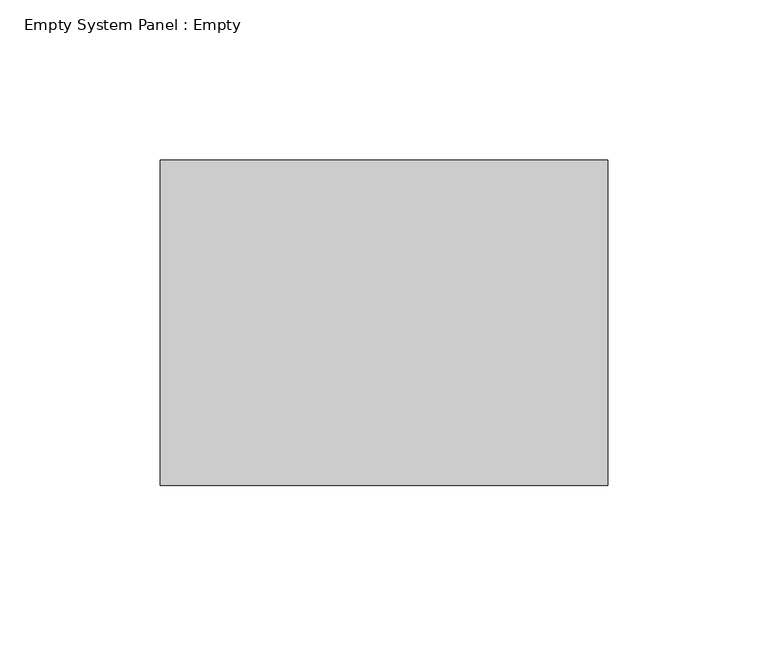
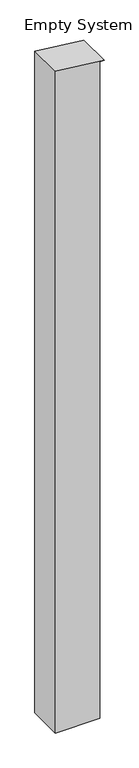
"""IFC4 building model written with IfcOpenShell, lengths in millimetres: plate geometry, Empty System Panel : Empty."""

import ifcopenshell
import ifcopenshell.guid

model = None  # the IFC model being written
_history = None  # IfcOwnerHistory: only IFC2X3 demands one
_inside = {}  # id of a spatial element -> (the spatial element, [elements in it])
_under = {}  # id of a project, library or spatial element -> (it, [spatial elements below it])
_declared = {}  # id of a project -> (the project, [libraries it declares])
_typed = {}  # id of a type object -> (the type object, [elements of that type])
_made_of = {}  # id of a material, layer set ... -> (it, [elements and type objects made of it])


def new_model(schema):
    """Start an empty IFC model of exactly this schema.

    Asked for "IFC4X3", IfcOpenShell would pick the latest addendum, in which some entities
    have other attributes; the version numbers below select the first issue.
    IFC2X3 requires an IfcOwnerHistory on every rooted entity: one is made here for all.
    """
    global model, _history
    if schema == "IFC4X3":
        model = ifcopenshell.file(schema_version=(4, 3, 0, 0))
    else:
        model = ifcopenshell.file(schema=schema)
    _inside.clear()
    _under.clear()
    _declared.clear()
    _typed.clear()
    _made_of.clear()
    _history = None
    if model.schema == "IFC2X3":
        org = make("IfcOrganization", Name="unknown")
        user = make(
            "IfcPersonAndOrganization",
            ThePerson=make("IfcPerson", FamilyName="unknown"),
            TheOrganization=org,
        )
        app = make(
            "IfcApplication",
            ApplicationDeveloper=org,
            Version="unknown",
            ApplicationFullName="unknown",
            ApplicationIdentifier="unknown",
        )
        _history = make(
            "IfcOwnerHistory",
            OwningUser=user,
            OwningApplication=app,
            ChangeAction="ADDED",
            CreationDate=0,
        )
    return model


def make(cls, **values):
    """One entity of the class cls with the attributes given. An attribute that is None is left unset."""
    return model.create_entity(
        cls, **{name: value for name, value in values.items() if value is not None}
    )


def rooted(cls, **values):
    """An entity with a GlobalId (a new one), such as an element, a storey or a relation."""
    return make(cls, GlobalId=ifcopenshell.guid.new(), OwnerHistory=_history, **values)


def si_unit(unit_type, name, prefix=None):
    """IfcSIUnit, for example si_unit("LENGTHUNIT", "METRE", prefix="MILLI")."""
    return make("IfcSIUnit", UnitType=unit_type, Prefix=prefix, Name=name)


def assignment(units):
    """IfcUnitAssignment: the units of a project."""
    return None if units is None else make("IfcUnitAssignment", Units=units)


def point(xyz):
    """IfcCartesianPoint."""
    return None if xyz is None else make("IfcCartesianPoint", Coordinates=xyz)


def direction(xyz):
    """IfcDirection."""
    return None if xyz is None else make("IfcDirection", DirectionRatios=xyz)


def frame(location, z_axis=None, x_axis=None):
    """IfcAxis2Placement3D, a coordinate frame: its origin and axes. An axis left out is left unset."""
    return make(
        "IfcAxis2Placement3D",
        Location=point(location),
        Axis=direction(z_axis),
        RefDirection=direction(x_axis),
    )


def origin():
    """The frame at (0, 0, 0) with its axes left unset."""
    return frame((0.0, 0.0, 0.0))


def place(relative_to, where):
    """IfcLocalPlacement: puts the frame where relative to a parent placement (None: the world)."""
    return make(
        "IfcLocalPlacement", PlacementRelTo=relative_to, RelativePlacement=where
    )


def context(
    kind, dimensions, precision=None, world=None, true_north=None, identifier=None
):
    """IfcGeometricRepresentationContext, for example the 3D "Model" context."""
    return make(
        "IfcGeometricRepresentationContext",
        ContextIdentifier=identifier,
        ContextType=kind,
        CoordinateSpaceDimension=dimensions,
        Precision=precision,
        WorldCoordinateSystem=world,
        TrueNorth=true_north,
    )


def project(units=None, contexts=None):
    """IfcProject with its units and contexts."""
    return rooted(
        "IfcProject",
        Name="project",
        RepresentationContexts=contexts,
        UnitsInContext=assignment(units),
    )


def spatial(cls, under=None, at=None, **own):
    """A site, building, storey or space (cls), placed at a placement, below another one or the project."""
    s = rooted(cls, ObjectPlacement=at, **own)
    if under is not None:
        _under.setdefault(under.id(), (under, []))[1].append(s)
    return s


def polyline(points):
    """IfcPolyline through the points."""
    return make("IfcPolyline", Points=[point(p) for p in points])


def outline(outer, holes=None, kind="AREA"):
    """IfcArbitraryClosedProfileDef: a profile drawn as a closed curve; with holes, ...WithVoids."""
    if holes is None:
        return make("IfcArbitraryClosedProfileDef", ProfileType=kind, OuterCurve=outer)
    return make(
        "IfcArbitraryProfileDefWithVoids",
        ProfileType=kind,
        OuterCurve=outer,
        InnerCurves=holes,
    )


def extrude(swept, where, along, depth):
    """IfcExtrudedAreaSolid: the profile swept, set in the frame where, extruded along a direction by depth."""
    return make(
        "IfcExtrudedAreaSolid",
        SweptArea=swept,
        Position=where,
        ExtrudedDirection=direction(along),
        Depth=depth,
    )


def shape(context_of_items, identifier, shape_type, items):
    """IfcShapeRepresentation: the items that make up one representation, for example the "Body"."""
    return make(
        "IfcShapeRepresentation",
        ContextOfItems=context_of_items,
        RepresentationIdentifier=identifier,
        RepresentationType=shape_type,
        Items=items,
    )


def source(mapping_origin, context_of_items, identifier, shape_type, items):
    """IfcRepresentationMap: a shape defined once, which mapped items show again and again."""
    return make(
        "IfcRepresentationMap",
        MappingOrigin=mapping_origin,
        MappedRepresentation=shape(context_of_items, identifier, shape_type, items),
    )


def transform(
    local_origin,
    x_axis=None,
    y_axis=None,
    z_axis=None,
    scale=None,
    scale2=None,
    scale3=None,
    uniform=True,
):
    """IfcCartesianTransformationOperator3D, or its non-uniform kind. x_axis, y_axis, z_axis: its Axis1, 2, 3."""
    if uniform:
        return make(
            "IfcCartesianTransformationOperator3D",
            Axis1=direction(x_axis),
            Axis2=direction(y_axis),
            LocalOrigin=point(local_origin),
            Scale=scale,
            Axis3=direction(z_axis),
        )
    return make(
        "IfcCartesianTransformationOperator3DnonUniform",
        Axis1=direction(x_axis),
        Axis2=direction(y_axis),
        LocalOrigin=point(local_origin),
        Scale=scale,
        Axis3=direction(z_axis),
        Scale2=scale2,
        Scale3=scale3,
    )


def mapped(mapping_source, mapping_target):
    """IfcMappedItem: shows the shape of a source again, moved by a transform."""
    return make(
        "IfcMappedItem", MappingSource=mapping_source, MappingTarget=mapping_target
    )


def made_of(thing, what):
    """Note that an element or type object is made of a material, layer set ...; save() writes the relation."""
    if what is not None:
        _made_of.setdefault(what.id(), (what, []))[1].append(thing)
    return thing


def element(
    cls,
    number,
    at=None,
    inside=None,
    cuts=None,
    type_object=None,
    material=None,
    context=None,
    identifier="Body",
    shape_type=None,
    held_by="IfcProductDefinitionShape",
    body=None,
    shapes=None,
    **own,
):
    """One element of the class cls, such as IfcWall. Its Tag is "e" and its number.

    at: its placement. inside: the storey or other place that contains it. cuts: it is an
    opening in that element (IfcRelVoidsElement). A single representation is given by context,
    identifier, shape_type and body (its items); several are given by shapes. held_by: the class
    of the entity that holds the representations. save() writes the other relations.
    """
    e = rooted(cls, Tag="e%d" % number, ObjectPlacement=at, **own)
    if body is not None:
        shapes = [shape(context, identifier, shape_type, body)]
    if shapes is not None:
        e.Representation = make(held_by, Representations=shapes)
    if inside is not None:
        _inside.setdefault(inside.id(), (inside, []))[1].append(e)
    if cuts is not None:
        rooted(
            "IfcRelVoidsElement", RelatingBuildingElement=cuts, RelatedOpeningElement=e
        )
    if type_object is not None:
        _typed.setdefault(type_object.id(), (type_object, []))[1].append(e)
    return made_of(e, material)


def aggregate(whole, parts):
    """IfcRelAggregates: a whole, such as a stair, and the parts it consists of."""
    return rooted("IfcRelAggregates", RelatingObject=whole, RelatedObjects=parts)


def save(model, path):
    """Write the relations noted so far, then the file.

    IfcRelAggregates (storeys below a building ...), IfcRelContainedInSpatialStructure (elements
    in a storey), IfcRelDefinesByType, IfcRelAssociatesMaterial and IfcRelDeclares: one each for
    every whole, place, type object, material and project.
    """
    for whole, parts in _under.values():
        aggregate(whole, parts)
    for where, things in _inside.values():
        rooted(
            "IfcRelContainedInSpatialStructure",
            RelatedElements=things,
            RelatingStructure=where,
        )
    for kind, things in _typed.values():
        rooted("IfcRelDefinesByType", RelatedObjects=things, RelatingType=kind)
    for what, things in _made_of.values():
        rooted("IfcRelAssociatesMaterial", RelatedObjects=things, RelatingMaterial=what)
    for by, libraries in _declared.values():
        rooted("IfcRelDeclares", RelatingContext=by, RelatedDefinitions=libraries)
    model.write(path)


def empty_system_panel_empty_c6d2c272(model_context):
    return source(origin(), model_context, "Body", "SweptSolid", [
        extrude(outline(polyline([(0.0, -69.85), (0.0, 57.15), (1991.3475719, 57.15), (1991.3475719, 69.85), (2006.9727619, -69.85), (0.0, -69.85)])), frame((0.0, -50.8, 0.0), z_axis=(0.0, 1.0, 0.0), x_axis=(0.0, 0.0, 1.0)), (0.0, 0.0, 1.0), 101.6),
    ])


if __name__ == "__main__":
    model = new_model("IFC4")
    model_context = context("Model", 3, world=origin())
    ifc_project = project(units=[si_unit("LENGTHUNIT", "METRE", prefix="MILLI")], contexts=[model_context])
    site = spatial("IfcSite", under=ifc_project)
    building = spatial("IfcBuilding", under=site)
    placement = place(None, origin())
    empty_system_panel_empty_shape = empty_system_panel_empty_c6d2c272(model_context)
    element("IfcPlate", 1, ObjectType="Empty System Panel : Empty", at=placement, inside=building, context=model_context, shape_type="MappedRepresentation", body=[
        mapped(empty_system_panel_empty_shape, transform((0.0, 0.0, 0.0), x_axis=(1.0, 0.0, 0.0), y_axis=(0.0, 1.0, 0.0), z_axis=(0.0, 0.0, 1.0))),
    ])
    save(model, "model.ifc")
